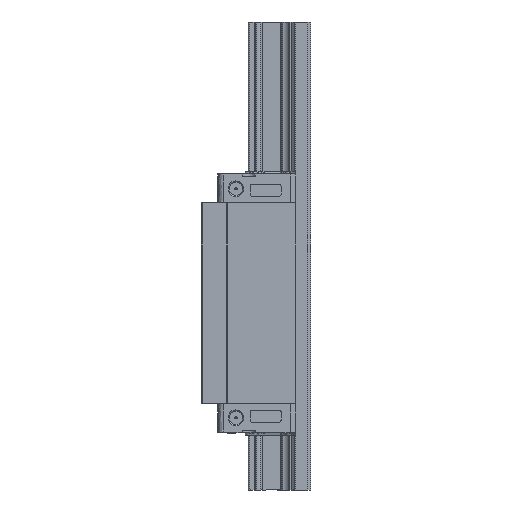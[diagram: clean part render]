
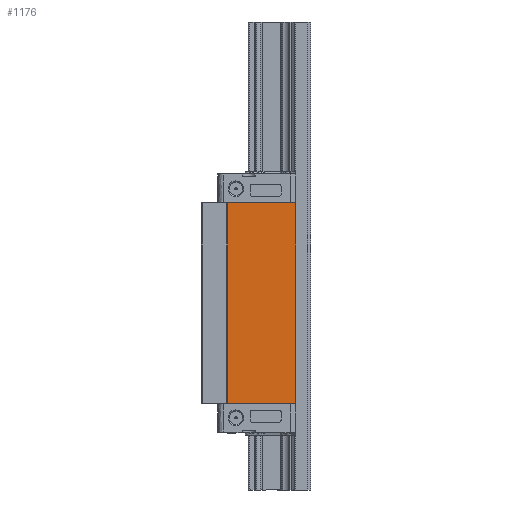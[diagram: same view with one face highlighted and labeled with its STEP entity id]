
A CAD part, left-side view. The second image highlights one B-rep face of the part: STEP entity #1176.
In plain terms, the highlighted planar face has unit normal (-1, 0, 0).
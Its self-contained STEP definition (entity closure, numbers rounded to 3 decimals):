
#741=FACE_OUTER_BOUND('',#3689,.T.);
#1176=ADVANCED_FACE('',(#741),#1645,.F.);
#1645=PLANE('',#9366);
#1998=LINE('',#12558,#2727);
#2037=LINE('',#12664,#2766);
#2053=LINE('',#12704,#2782);
#2075=LINE('',#12775,#2804);
#2727=VECTOR('',#10321,1.);
#2766=VECTOR('',#10364,1.);
#2782=VECTOR('',#10400,1.);
#2804=VECTOR('',#10440,1.);
#3689=EDGE_LOOP('',(#4683,#4684,#4685,#4686));
#4683=ORIENTED_EDGE('',*,*,#7835,.F.);
#4684=ORIENTED_EDGE('',*,*,#7920,.T.);
#4685=ORIENTED_EDGE('',*,*,#7896,.T.);
#4686=ORIENTED_EDGE('',*,*,#7876,.F.);
#6892=VERTEX_POINT('',#12557);
#6893=VERTEX_POINT('',#12559);
#6918=VERTEX_POINT('',#12637);
#6946=VERTEX_POINT('',#12705);
#7835=EDGE_CURVE('',#6892,#6893,#1998,.T.);
#7876=EDGE_CURVE('',#6893,#6918,#2037,.T.);
#7896=EDGE_CURVE('',#6946,#6918,#2053,.T.);
#7920=EDGE_CURVE('',#6892,#6946,#2075,.T.);
#9366=AXIS2_PLACEMENT_3D('',#12776,#10441,#10442);
#10321=DIRECTION('',(0.,-1.,0.));
#10364=DIRECTION('',(0.,0.,-1.));
#10400=DIRECTION('',(0.,-1.,0.));
#10440=DIRECTION('',(0.,0.,-1.));
#10441=DIRECTION('',(1.,0.,0.));
#10442=DIRECTION('',(0.,0.,1.));
#12557=CARTESIAN_POINT('',(-40.797,39.417,278.813));
#12558=CARTESIAN_POINT('',(-40.797,39.417,278.813));
#12559=CARTESIAN_POINT('',(-40.797,-4.583,278.813));
#12637=CARTESIAN_POINT('',(-40.797,-4.583,150.013));
#12664=CARTESIAN_POINT('',(-40.797,-4.583,278.813));
#12704=CARTESIAN_POINT('',(-40.797,39.417,150.013));
#12705=CARTESIAN_POINT('',(-40.797,39.417,150.013));
#12775=CARTESIAN_POINT('',(-40.797,39.417,278.813));
#12776=CARTESIAN_POINT('',(-40.797,-6.783,285.253));
